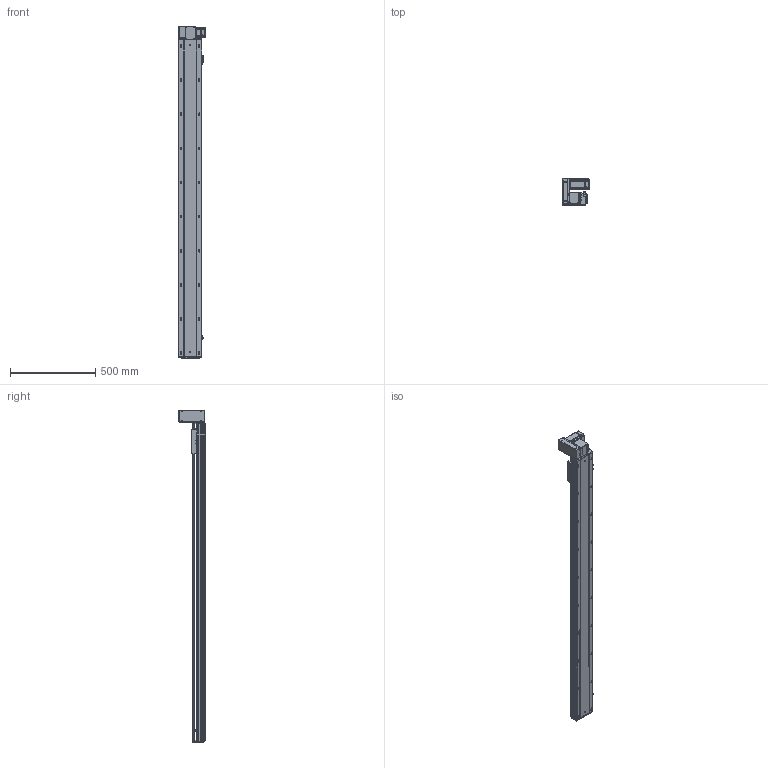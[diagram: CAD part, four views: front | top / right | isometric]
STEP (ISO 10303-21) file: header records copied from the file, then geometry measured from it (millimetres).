
FILE_DESCRIPTION (( 'STEP AP203' ), '1' );
FILE_NAME ('RY140-T-300-UL.SLDASM_1600.step', '2021-03-01T07:44:41', ( '盈信电脑' ), ( '东莞市道滘镇水果街19号' ), 'SwSTEP 2.0', 'SolidWorks 2012', '' );
FILE_SCHEMA (( 'CONFIG_CONTROL_DESIGN' ));
Length unit declared in the file: millimetre
Products named in the file (18): RY140-T萇儂欶; RY140-T-300-UL.SLDASM_1600; RY140-T翋肮謫裔啣; 滅袉蝶18-10; RY120-T蹟翐M4; 侂狟400W侜督萇儂; RY120-T主同步轮轴承压盖; RY140-T萇儂假蚾啣; RY140-T翋肮祭謫盓傅釱; RY120-T肮祭湍揤踡輸1; 15; 覜茼ん672; RY120-T肮祭湍揤踡輸2; RY120外置感应片(140共用）; RY140肮祭謫臏賑輸; RY140綴裔啣; RY140-T-300-DL倰第奻裔啣_1600; RY140-T-300-DL倰第菁釱_1600
Assembly tree (23 placements, depth 3):
  RY140-T-300-UL.SLDASM_1600
    RY140-T-300-DL倰第菁釱_1600
    RY140肮祭謫臏賑輸
    RY140-T-300-DL倰第奻裔啣_1600
    RY140綴裔啣
    覜茼ん672  x3
    RY120外置感应片(140共用）
    RY120-T肮祭湍揤踡輸2
    RY120-T肮祭湍揤踡輸1
    RY140-T翋肮祭謫盓傅釱
    RY140-T萇儂假蚾啣
    侂狟400W侜督萇儂
      15
    RY120-T主同步轮轴承压盖
    RY120-T蹟翐M4  x4
    RY140-T萇儂欶
    滅袉蝶18-10  x2
    RY140-T翋肮謫裔啣
Bounding box: 157 x 152.5 x 1946 mm (x, y, z)
Volume: 5431889.4 mm3; surface area: 2110103.6 mm2
Topology: 22 solids, 22 shells, 2803 faces, 7689 edges, 4906 vertices
Faces by surface type: plane 1385, cylinder 1056, cone 262, bspline 100
Entity records: 88639 total; most frequent: CARTESIAN_POINT 21547, ORIENTED_EDGE 13778, DIRECTION 13153, EDGE_CURVE 6889, VERTEX_POINT 4505, AXIS2_PLACEMENT_3D 4404, VECTOR 4345, LINE 4345
